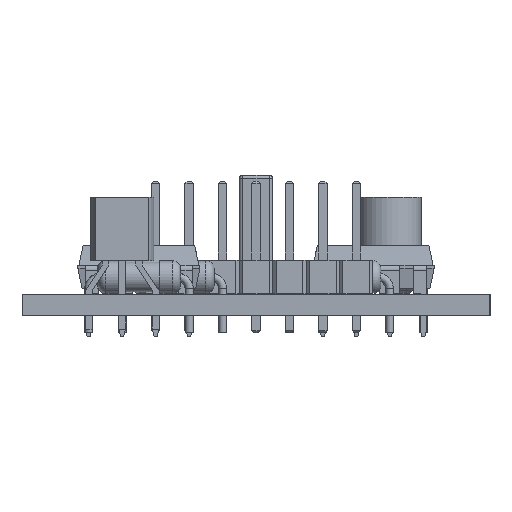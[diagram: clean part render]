
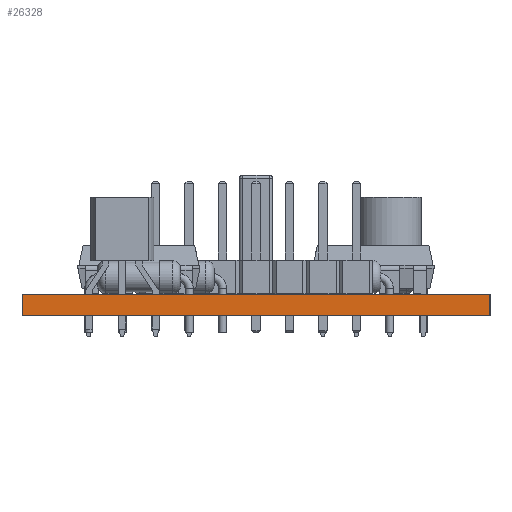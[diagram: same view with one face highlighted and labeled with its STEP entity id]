
A CAD part, left-side view. The second image highlights one B-rep face of the part: STEP entity #26328.
In plain terms, the highlighted planar face has unit normal (-1, 0, 0).
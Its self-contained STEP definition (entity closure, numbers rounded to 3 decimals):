
#23070 = PLANE('',#23071);
#23071 = AXIS2_PLACEMENT_3D('',#23072,#23073,#23074);
#23072 = CARTESIAN_POINT('',(40.64,-68.58,0.));
#23073 = DIRECTION('',(0.,1.,0.));
#23074 = DIRECTION('',(1.,0.,0.));
#23098 = PLANE('',#23099);
#23099 = AXIS2_PLACEMENT_3D('',#23100,#23101,#23102);
#23100 = CARTESIAN_POINT('',(64.77,-50.8,1.6));
#23101 = DIRECTION('',(0.,0.,1.));
#23102 = DIRECTION('',(1.,0.,-0.));
#23126 = PLANE('',#23127);
#23127 = AXIS2_PLACEMENT_3D('',#23128,#23129,#23130);
#23128 = CARTESIAN_POINT('',(88.9,-33.02,0.));
#23129 = DIRECTION('',(0.,-1.,0.));
#23130 = DIRECTION('',(-1.,0.,0.));
#23152 = PLANE('',#23153);
#23153 = AXIS2_PLACEMENT_3D('',#23154,#23155,#23156);
#23154 = CARTESIAN_POINT('',(64.77,-50.8,0.));
#23155 = DIRECTION('',(0.,0.,1.));
#23156 = DIRECTION('',(1.,0.,-0.));
#23167 = EDGE_CURVE('',#23168,#23170,#23172,.T.);
#23168 = VERTEX_POINT('',#23169);
#23169 = CARTESIAN_POINT('',(40.64,-68.58,0.));
#23170 = VERTEX_POINT('',#23171);
#23171 = CARTESIAN_POINT('',(40.64,-68.58,1.6));
#23172 = SURFACE_CURVE('',#23173,(#23177,#23184),.PCURVE_S1.);
#23173 = LINE('',#23174,#23175);
#23174 = CARTESIAN_POINT('',(40.64,-68.58,0.));
#23175 = VECTOR('',#23176,1.);
#23176 = DIRECTION('',(0.,0.,1.));
#23177 = PCURVE('',#23070,#23178);
#23178 = DEFINITIONAL_REPRESENTATION('',(#23179),#23183);
#23179 = LINE('',#23180,#23181);
#23180 = CARTESIAN_POINT('',(0.,0.));
#23181 = VECTOR('',#23182,1.);
#23182 = DIRECTION('',(0.,-1.));
#23183 = ( GEOMETRIC_REPRESENTATION_CONTEXT(2) 
PARAMETRIC_REPRESENTATION_CONTEXT() REPRESENTATION_CONTEXT('2D SPACE',''
  ) );
#23184 = PCURVE('',#23185,#23190);
#23185 = PLANE('',#23186);
#23186 = AXIS2_PLACEMENT_3D('',#23187,#23188,#23189);
#23187 = CARTESIAN_POINT('',(40.64,-33.02,0.));
#23188 = DIRECTION('',(1.,0.,-0.));
#23189 = DIRECTION('',(0.,-1.,0.));
#23190 = DEFINITIONAL_REPRESENTATION('',(#23191),#23195);
#23191 = LINE('',#23192,#23193);
#23192 = CARTESIAN_POINT('',(35.56,0.));
#23193 = VECTOR('',#23194,1.);
#23194 = DIRECTION('',(0.,-1.));
#23195 = ( GEOMETRIC_REPRESENTATION_CONTEXT(2) 
PARAMETRIC_REPRESENTATION_CONTEXT() REPRESENTATION_CONTEXT('2D SPACE',''
  ) );
#23245 = VERTEX_POINT('',#23246);
#23246 = CARTESIAN_POINT('',(40.64,-33.02,1.6));
#23267 = EDGE_CURVE('',#23268,#23245,#23270,.T.);
#23268 = VERTEX_POINT('',#23269);
#23269 = CARTESIAN_POINT('',(40.64,-33.02,0.));
#23270 = SURFACE_CURVE('',#23271,(#23275,#23282),.PCURVE_S1.);
#23271 = LINE('',#23272,#23273);
#23272 = CARTESIAN_POINT('',(40.64,-33.02,0.));
#23273 = VECTOR('',#23274,1.);
#23274 = DIRECTION('',(0.,0.,1.));
#23275 = PCURVE('',#23126,#23276);
#23276 = DEFINITIONAL_REPRESENTATION('',(#23277),#23281);
#23277 = LINE('',#23278,#23279);
#23278 = CARTESIAN_POINT('',(48.26,0.));
#23279 = VECTOR('',#23280,1.);
#23280 = DIRECTION('',(0.,-1.));
#23281 = ( GEOMETRIC_REPRESENTATION_CONTEXT(2) 
PARAMETRIC_REPRESENTATION_CONTEXT() REPRESENTATION_CONTEXT('2D SPACE',''
  ) );
#23282 = PCURVE('',#23185,#23283);
#23283 = DEFINITIONAL_REPRESENTATION('',(#23284),#23288);
#23284 = LINE('',#23285,#23286);
#23285 = CARTESIAN_POINT('',(0.,0.));
#23286 = VECTOR('',#23287,1.);
#23287 = DIRECTION('',(0.,-1.));
#23288 = ( GEOMETRIC_REPRESENTATION_CONTEXT(2) 
PARAMETRIC_REPRESENTATION_CONTEXT() REPRESENTATION_CONTEXT('2D SPACE',''
  ) );
#23316 = EDGE_CURVE('',#23268,#23168,#23317,.T.);
#23317 = SURFACE_CURVE('',#23318,(#23322,#23329),.PCURVE_S1.);
#23318 = LINE('',#23319,#23320);
#23319 = CARTESIAN_POINT('',(40.64,-33.02,0.));
#23320 = VECTOR('',#23321,1.);
#23321 = DIRECTION('',(0.,-1.,0.));
#23322 = PCURVE('',#23152,#23323);
#23323 = DEFINITIONAL_REPRESENTATION('',(#23324),#23328);
#23324 = LINE('',#23325,#23326);
#23325 = CARTESIAN_POINT('',(-24.13,17.78));
#23326 = VECTOR('',#23327,1.);
#23327 = DIRECTION('',(0.,-1.));
#23328 = ( GEOMETRIC_REPRESENTATION_CONTEXT(2) 
PARAMETRIC_REPRESENTATION_CONTEXT() REPRESENTATION_CONTEXT('2D SPACE',''
  ) );
#23329 = PCURVE('',#23185,#23330);
#23330 = DEFINITIONAL_REPRESENTATION('',(#23331),#23335);
#23331 = LINE('',#23332,#23333);
#23332 = CARTESIAN_POINT('',(0.,0.));
#23333 = VECTOR('',#23334,1.);
#23334 = DIRECTION('',(1.,0.));
#23335 = ( GEOMETRIC_REPRESENTATION_CONTEXT(2) 
PARAMETRIC_REPRESENTATION_CONTEXT() REPRESENTATION_CONTEXT('2D SPACE',''
  ) );
#24955 = EDGE_CURVE('',#23245,#23170,#24956,.T.);
#24956 = SURFACE_CURVE('',#24957,(#24961,#24968),.PCURVE_S1.);
#24957 = LINE('',#24958,#24959);
#24958 = CARTESIAN_POINT('',(40.64,-33.02,1.6));
#24959 = VECTOR('',#24960,1.);
#24960 = DIRECTION('',(0.,-1.,0.));
#24961 = PCURVE('',#23098,#24962);
#24962 = DEFINITIONAL_REPRESENTATION('',(#24963),#24967);
#24963 = LINE('',#24964,#24965);
#24964 = CARTESIAN_POINT('',(-24.13,17.78));
#24965 = VECTOR('',#24966,1.);
#24966 = DIRECTION('',(0.,-1.));
#24967 = ( GEOMETRIC_REPRESENTATION_CONTEXT(2) 
PARAMETRIC_REPRESENTATION_CONTEXT() REPRESENTATION_CONTEXT('2D SPACE',''
  ) );
#24968 = PCURVE('',#23185,#24969);
#24969 = DEFINITIONAL_REPRESENTATION('',(#24970),#24974);
#24970 = LINE('',#24971,#24972);
#24971 = CARTESIAN_POINT('',(0.,-1.6));
#24972 = VECTOR('',#24973,1.);
#24973 = DIRECTION('',(1.,0.));
#24974 = ( GEOMETRIC_REPRESENTATION_CONTEXT(2) 
PARAMETRIC_REPRESENTATION_CONTEXT() REPRESENTATION_CONTEXT('2D SPACE',''
  ) );
#26328 = ADVANCED_FACE('',(#26329),#23185,.F.);
#26329 = FACE_BOUND('',#26330,.F.);
#26330 = EDGE_LOOP('',(#26331,#26332,#26333,#26334));
#26331 = ORIENTED_EDGE('',*,*,#23267,.T.);
#26332 = ORIENTED_EDGE('',*,*,#24955,.T.);
#26333 = ORIENTED_EDGE('',*,*,#23167,.F.);
#26334 = ORIENTED_EDGE('',*,*,#23316,.F.);
